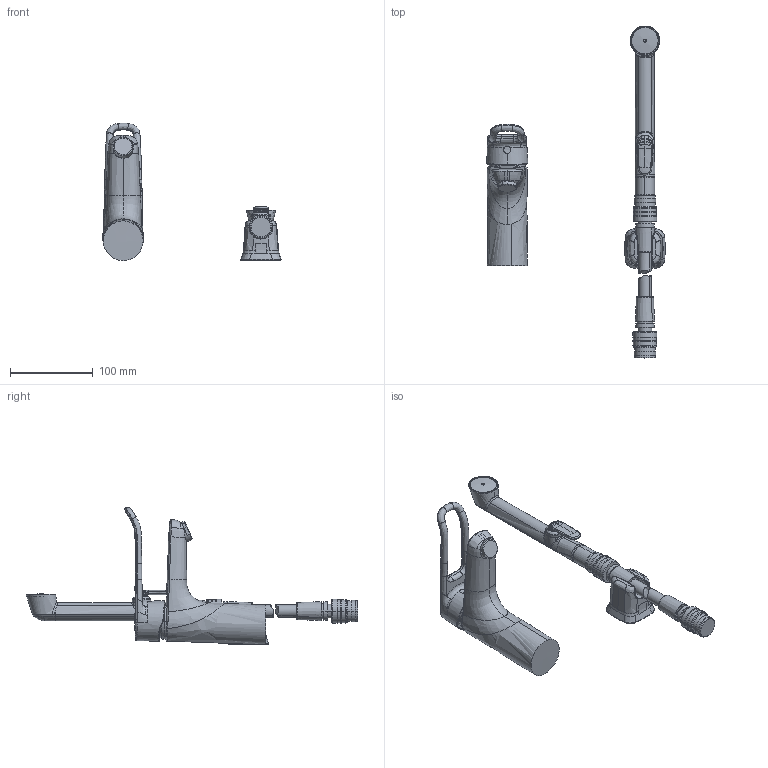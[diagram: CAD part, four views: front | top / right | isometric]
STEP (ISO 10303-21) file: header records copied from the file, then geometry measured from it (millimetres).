
FILE_DESCRIPTION (( 'STEP AP203' ), '1' );
FILE_NAME ('5601FZ(2024)+5602FZ(2024).STEP', '2024-02-02T11:21:21', ( '' ), ( '' ), 'SwSTEP 2.0', 'SolidWorks 2016', '' );
FILE_SCHEMA (( 'CONFIG_CONTROL_DESIGN' ));
Products named in the file (1): 5601FZ(2024)+5602FZ(2024)
Bounding box: 216.46 x 402.38 x 166.49 mm (x, y, z)
Volume: 644922.4 mm3; surface area: 110327.2 mm2
Topology: 17 solids, 17 shells, 611 faces, 1427 edges, 885 vertices
Faces by surface type: bspline 354, cylinder 100, plane 77, cone 50, torus 28, sphere 2
Entity records: 98213 total; most frequent: CARTESIAN_POINT 86936, ORIENTED_EDGE 2850, DIRECTION 1541, EDGE_CURVE 1425, VERTEX_POINT 885, AXIS2_PLACEMENT_3D 676, B_SPLINE_CURVE_WITH_KNOTS 667, EDGE_LOOP 650
